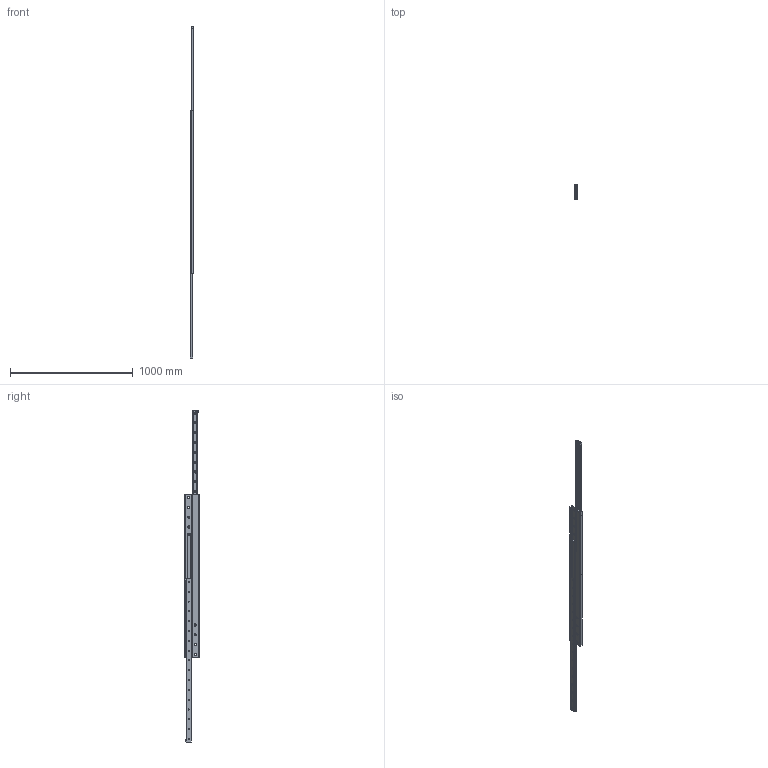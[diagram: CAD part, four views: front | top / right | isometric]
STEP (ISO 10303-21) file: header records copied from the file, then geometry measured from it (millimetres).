
FILE_DESCRIPTION(('STEP AP214'),'1');
FILE_NAME('rail_dss43-1330_01.stp','2017-04-17T03:59:45',('TraceParts'),('TraceParts S.A.'),'Spatial InterOp 3D',' ',' ');
FILE_SCHEMA(('automotive_design'));
Length unit declared in the file: millimetre
Products named in the file (3): rail_dss43-1330_01_1; rail_dss43-1330_01_2; rail_dss43-1330_01_3
Bounding box: 28 x 120 x 2706 mm (x, y, z)
Volume: 2370533 mm3; surface area: 951300.8 mm2
Topology: 3 solids, 3 shells, 342 faces, 910 edges, 584 vertices
Faces by surface type: plane 138, cylinder 136, cone 68
Entity records: 10879 total; most frequent: DIRECTION 1956, CARTESIAN_POINT 1839, ORIENTED_EDGE 1820, EDGE_CURVE 910, AXIS2_PLACEMENT_3D 701, VERTEX_POINT 584, LINE 554, VECTOR 554
